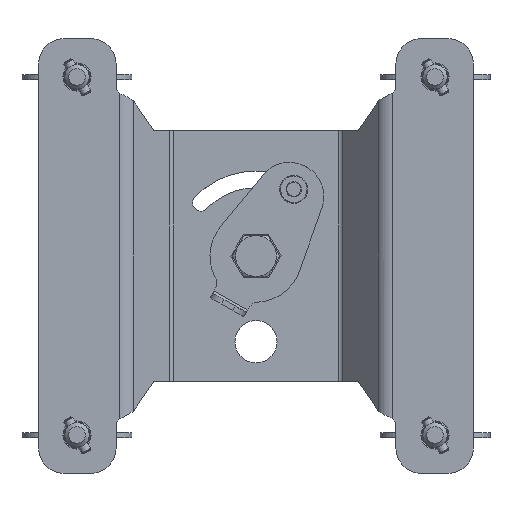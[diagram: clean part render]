
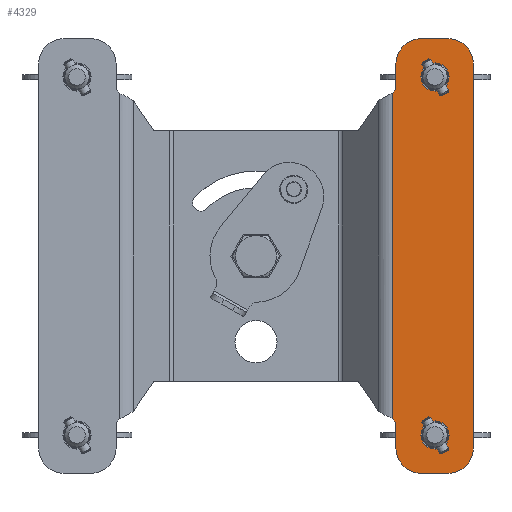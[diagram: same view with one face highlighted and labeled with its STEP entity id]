
A CAD part, top view. The second image highlights one B-rep face of the part: STEP entity #4329.
In plain terms, the highlighted planar face has unit normal (0, 0, 1).
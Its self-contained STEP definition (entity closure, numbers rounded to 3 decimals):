
#384=PLANE('',#5662);
#581=LINE('',#8218,#798);
#585=LINE('',#8230,#802);
#587=LINE('',#8238,#804);
#592=LINE('',#8253,#809);
#595=LINE('',#8268,#812);
#597=LINE('',#8272,#814);
#603=LINE('',#8284,#820);
#604=LINE('',#8286,#821);
#798=VECTOR('',#6708,1000.);
#802=VECTOR('',#6720,1000.);
#804=VECTOR('',#6730,1000.);
#809=VECTOR('',#6743,1000.);
#812=VECTOR('',#6760,1000.);
#814=VECTOR('',#6764,1000.);
#820=VECTOR('',#6774,1000.);
#821=VECTOR('',#6777,1000.);
#1560=ORIENTED_EDGE('',*,*,#2276,.F.);
#1561=ORIENTED_EDGE('',*,*,#2274,.F.);
#1562=ORIENTED_EDGE('',*,*,#2279,.F.);
#1563=ORIENTED_EDGE('',*,*,#2270,.T.);
#1564=ORIENTED_EDGE('',*,*,#2272,.T.);
#1565=ORIENTED_EDGE('',*,*,#2249,.T.);
#1566=ORIENTED_EDGE('',*,*,#2255,.F.);
#1567=ORIENTED_EDGE('',*,*,#2256,.T.);
#1568=ORIENTED_EDGE('',*,*,#2261,.F.);
#1569=ORIENTED_EDGE('',*,*,#2262,.T.);
#1570=ORIENTED_EDGE('',*,*,#2265,.F.);
#1571=ORIENTED_EDGE('',*,*,#2287,.F.);
#1572=ORIENTED_EDGE('',*,*,#2288,.T.);
#1573=ORIENTED_EDGE('',*,*,#2281,.F.);
#2249=EDGE_CURVE('',#2691,#2692,#2991,.F.);
#2255=EDGE_CURVE('',#2696,#2692,#581,.T.);
#2256=EDGE_CURVE('',#2696,#2697,#2993,.F.);
#2261=EDGE_CURVE('',#2700,#2697,#585,.T.);
#2262=EDGE_CURVE('',#2700,#2701,#2995,.F.);
#2265=EDGE_CURVE('',#2703,#2701,#587,.T.);
#2270=EDGE_CURVE('',#2708,#2707,#2998,.F.);
#2272=EDGE_CURVE('',#2707,#2691,#592,.T.);
#2274=EDGE_CURVE('',#2709,#2709,#2999,.T.);
#2276=EDGE_CURVE('',#2711,#2711,#3001,.T.);
#2279=EDGE_CURVE('',#2708,#2714,#595,.T.);
#2281=EDGE_CURVE('',#2714,#2715,#597,.T.);
#2287=EDGE_CURVE('',#2718,#2703,#603,.T.);
#2288=EDGE_CURVE('',#2718,#2715,#604,.T.);
#2691=VERTEX_POINT('',#8206);
#2692=VERTEX_POINT('',#8207);
#2696=VERTEX_POINT('',#8217);
#2697=VERTEX_POINT('',#8221);
#2700=VERTEX_POINT('',#8229);
#2701=VERTEX_POINT('',#8233);
#2703=VERTEX_POINT('',#8239);
#2707=VERTEX_POINT('',#8248);
#2708=VERTEX_POINT('',#8250);
#2709=VERTEX_POINT('',#8257);
#2711=VERTEX_POINT('',#8262);
#2714=VERTEX_POINT('',#8269);
#2715=VERTEX_POINT('',#8273);
#2718=VERTEX_POINT('',#8283);
#2991=CIRCLE('',#5637,10.);
#2993=CIRCLE('',#5641,10.);
#2995=CIRCLE('',#5645,10.);
#2998=CIRCLE('',#5650,10.);
#2999=CIRCLE('',#5653,5.5);
#3001=CIRCLE('',#5656,5.5);
#3354=EDGE_LOOP('',(#1560));
#3355=EDGE_LOOP('',(#1561));
#3356=EDGE_LOOP('',(#1562,#1563,#1564,#1565,#1566,#1567,#1568,#1569,#1570,
#1571,#1572,#1573));
#3831=FACE_BOUND('',#3354,.T.);
#3832=FACE_BOUND('',#3355,.T.);
#3833=FACE_BOUND('',#3356,.T.);
#4329=ADVANCED_FACE('',(#3831,#3832,#3833),#384,.F.);
#5637=AXIS2_PLACEMENT_3D('',#8205,#6698,#6699);
#5641=AXIS2_PLACEMENT_3D('',#8220,#6711,#6712);
#5645=AXIS2_PLACEMENT_3D('',#8232,#6723,#6724);
#5650=AXIS2_PLACEMENT_3D('',#8249,#6738,#6739);
#5653=AXIS2_PLACEMENT_3D('',#8256,#6747,#6748);
#5656=AXIS2_PLACEMENT_3D('',#8261,#6753,#6754);
#5662=AXIS2_PLACEMENT_3D('',#8285,#6775,#6776);
#6698=DIRECTION('',(0.,0.,-1.));
#6699=DIRECTION('',(-1.,0.,0.));
#6708=DIRECTION('',(0.,-1.,0.));
#6711=DIRECTION('',(0.,0.,-1.));
#6712=DIRECTION('',(-1.,0.,0.));
#6720=DIRECTION('',(1.,0.,0.));
#6723=DIRECTION('',(0.,0.,-1.));
#6724=DIRECTION('',(-1.,0.,0.));
#6730=DIRECTION('',(0.,1.,0.));
#6738=DIRECTION('',(0.,0.,-1.));
#6739=DIRECTION('',(-1.,0.,0.));
#6743=DIRECTION('',(1.,0.,0.));
#6747=DIRECTION('',(0.,0.,1.));
#6748=DIRECTION('',(-1.,0.,0.));
#6753=DIRECTION('',(0.,0.,1.));
#6754=DIRECTION('',(-1.,0.,0.));
#6760=DIRECTION('',(0.,1.,0.));
#6764=DIRECTION('',(-0.728,0.685,0.));
#6774=DIRECTION('',(0.728,0.685,0.));
#6775=DIRECTION('',(0.,0.,-1.));
#6776=DIRECTION('',(-1.,0.,0.));
#6777=DIRECTION('',(0.,-1.,0.));
#8205=CARTESIAN_POINT('',(75.,-75.,0.));
#8206=CARTESIAN_POINT('',(75.,-85.,0.));
#8207=CARTESIAN_POINT('',(85.,-75.,0.));
#8217=CARTESIAN_POINT('',(85.,75.,0.));
#8218=CARTESIAN_POINT('',(85.,85.,0.));
#8220=CARTESIAN_POINT('',(75.,75.,0.));
#8221=CARTESIAN_POINT('',(75.,85.,0.));
#8229=CARTESIAN_POINT('',(64.697,85.,0.));
#8230=CARTESIAN_POINT('',(50.,85.,0.));
#8232=CARTESIAN_POINT('',(64.697,75.,0.));
#8233=CARTESIAN_POINT('',(54.697,75.,0.));
#8238=CARTESIAN_POINT('',(54.697,85.,0.));
#8239=CARTESIAN_POINT('',(54.697,65.,0.));
#8248=CARTESIAN_POINT('',(64.697,-85.,0.));
#8249=CARTESIAN_POINT('',(64.697,-75.,0.));
#8250=CARTESIAN_POINT('',(54.697,-75.,0.));
#8253=CARTESIAN_POINT('',(50.,-85.,0.));
#8256=CARTESIAN_POINT('',(70.,-70.,0.));
#8257=CARTESIAN_POINT('',(64.5,-70.,0.));
#8261=CARTESIAN_POINT('',(70.,70.,0.));
#8262=CARTESIAN_POINT('',(64.5,70.,0.));
#8268=CARTESIAN_POINT('',(54.697,85.,0.));
#8269=CARTESIAN_POINT('',(54.697,-65.,0.));
#8272=CARTESIAN_POINT('',(-22.656,7.803,0.));
#8273=CARTESIAN_POINT('',(53.264,-63.652,0.));
#8283=CARTESIAN_POINT('',(53.264,63.652,0.));
#8284=CARTESIAN_POINT('',(62.188,72.05,0.));
#8285=CARTESIAN_POINT('',(50.,85.,0.));
#8286=CARTESIAN_POINT('',(53.264,85.,0.));
